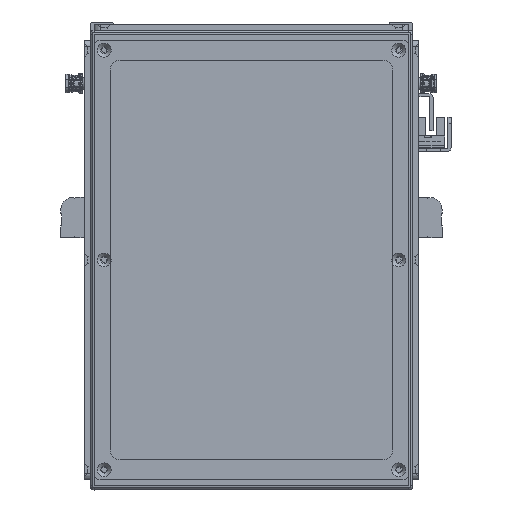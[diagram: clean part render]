
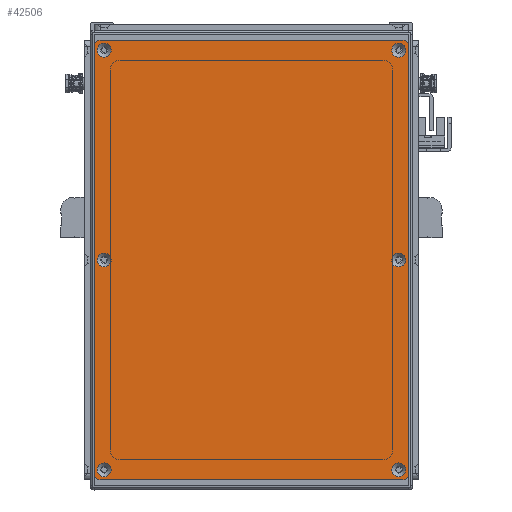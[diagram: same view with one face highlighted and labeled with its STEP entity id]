
A CAD part, front view. The second image highlights one B-rep face of the part: STEP entity #42506.
In plain terms, the highlighted planar face has unit normal (0, -1, 0).
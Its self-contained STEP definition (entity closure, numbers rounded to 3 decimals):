
#4842=FACE_BOUND('',#11411,.T.);
#4843=FACE_BOUND('',#11412,.T.);
#4844=FACE_BOUND('',#11413,.T.);
#4845=FACE_BOUND('',#11414,.T.);
#4846=FACE_BOUND('',#11415,.T.);
#4847=FACE_BOUND('',#11416,.T.);
#5821=PLANE('',#47371);
#8906=FACE_OUTER_BOUND('',#11410,.T.);
#11410=EDGE_LOOP('',(#39442,#39443,#39444,#39445,#39446,#39447,#39448,#39449));
#11411=EDGE_LOOP('',(#39450));
#11412=EDGE_LOOP('',(#39451));
#11413=EDGE_LOOP('',(#39452));
#11414=EDGE_LOOP('',(#39453));
#11415=EDGE_LOOP('',(#39454));
#11416=EDGE_LOOP('',(#39455));
#14515=LINE('',#74577,#17597);
#14516=LINE('',#74581,#17598);
#14517=LINE('',#74585,#17599);
#14518=LINE('',#74588,#17600);
#17597=VECTOR('',#58978,10.);
#17598=VECTOR('',#58981,10.);
#17599=VECTOR('',#58984,10.);
#17600=VECTOR('',#58987,10.);
#19762=CIRCLE('',#47339,3.45);
#19765=CIRCLE('',#47344,3.45);
#19768=CIRCLE('',#47349,3.45);
#19771=CIRCLE('',#47354,3.45);
#19774=CIRCLE('',#47359,3.45);
#19777=CIRCLE('',#47364,3.45);
#19780=CIRCLE('',#47369,3.);
#19782=CIRCLE('',#47372,3.);
#19783=CIRCLE('',#47373,3.);
#19784=CIRCLE('',#47374,3.);
#23371=VERTEX_POINT('',#74507);
#23374=VERTEX_POINT('',#74517);
#23377=VERTEX_POINT('',#74527);
#23380=VERTEX_POINT('',#74537);
#23383=VERTEX_POINT('',#74547);
#23386=VERTEX_POINT('',#74557);
#23389=VERTEX_POINT('',#74567);
#23390=VERTEX_POINT('',#74568);
#23393=VERTEX_POINT('',#74576);
#23394=VERTEX_POINT('',#74578);
#23395=VERTEX_POINT('',#74580);
#23396=VERTEX_POINT('',#74582);
#23397=VERTEX_POINT('',#74584);
#23398=VERTEX_POINT('',#74586);
#28758=EDGE_CURVE('',#23371,#23371,#19762,.T.);
#28763=EDGE_CURVE('',#23374,#23374,#19765,.T.);
#28768=EDGE_CURVE('',#23377,#23377,#19768,.T.);
#28773=EDGE_CURVE('',#23380,#23380,#19771,.T.);
#28778=EDGE_CURVE('',#23383,#23383,#19774,.T.);
#28783=EDGE_CURVE('',#23386,#23386,#19777,.T.);
#28788=EDGE_CURVE('',#23389,#23390,#19780,.T.);
#28792=EDGE_CURVE('',#23389,#23393,#14515,.T.);
#28793=EDGE_CURVE('',#23394,#23393,#19782,.T.);
#28794=EDGE_CURVE('',#23394,#23395,#14516,.T.);
#28795=EDGE_CURVE('',#23396,#23395,#19783,.T.);
#28796=EDGE_CURVE('',#23396,#23397,#14517,.T.);
#28797=EDGE_CURVE('',#23398,#23397,#19784,.T.);
#28798=EDGE_CURVE('',#23398,#23390,#14518,.T.);
#39442=ORIENTED_EDGE('',*,*,#28788,.F.);
#39443=ORIENTED_EDGE('',*,*,#28792,.T.);
#39444=ORIENTED_EDGE('',*,*,#28793,.F.);
#39445=ORIENTED_EDGE('',*,*,#28794,.T.);
#39446=ORIENTED_EDGE('',*,*,#28795,.F.);
#39447=ORIENTED_EDGE('',*,*,#28796,.T.);
#39448=ORIENTED_EDGE('',*,*,#28797,.F.);
#39449=ORIENTED_EDGE('',*,*,#28798,.T.);
#39450=ORIENTED_EDGE('',*,*,#28758,.T.);
#39451=ORIENTED_EDGE('',*,*,#28763,.T.);
#39452=ORIENTED_EDGE('',*,*,#28768,.T.);
#39453=ORIENTED_EDGE('',*,*,#28773,.T.);
#39454=ORIENTED_EDGE('',*,*,#28778,.T.);
#39455=ORIENTED_EDGE('',*,*,#28783,.T.);
#42506=ADVANCED_FACE('',(#8906,#4842,#4843,#4844,#4845,#4846,#4847),#5821,
 .T.);
#47339=AXIS2_PLACEMENT_3D('',#74508,#58898,#58899);
#47344=AXIS2_PLACEMENT_3D('',#74518,#58910,#58911);
#47349=AXIS2_PLACEMENT_3D('',#74528,#58922,#58923);
#47354=AXIS2_PLACEMENT_3D('',#74538,#58934,#58935);
#47359=AXIS2_PLACEMENT_3D('',#74548,#58946,#58947);
#47364=AXIS2_PLACEMENT_3D('',#74558,#58958,#58959);
#47369=AXIS2_PLACEMENT_3D('',#74569,#58970,#58971);
#47371=AXIS2_PLACEMENT_3D('',#74575,#58976,#58977);
#47372=AXIS2_PLACEMENT_3D('',#74579,#58979,#58980);
#47373=AXIS2_PLACEMENT_3D('',#74583,#58982,#58983);
#47374=AXIS2_PLACEMENT_3D('',#74587,#58985,#58986);
#58898=DIRECTION('center_axis',(0.,1.,0.));
#58899=DIRECTION('ref_axis',(1.,0.,0.));
#58910=DIRECTION('center_axis',(0.,1.,0.));
#58911=DIRECTION('ref_axis',(1.,0.,0.));
#58922=DIRECTION('center_axis',(0.,1.,0.));
#58923=DIRECTION('ref_axis',(1.,0.,0.));
#58934=DIRECTION('center_axis',(0.,1.,0.));
#58935=DIRECTION('ref_axis',(1.,0.,0.));
#58946=DIRECTION('center_axis',(0.,1.,0.));
#58947=DIRECTION('ref_axis',(1.,0.,0.));
#58958=DIRECTION('center_axis',(0.,1.,0.));
#58959=DIRECTION('ref_axis',(1.,0.,0.));
#58970=DIRECTION('center_axis',(0.,1.,0.));
#58971=DIRECTION('ref_axis',(-0.707,0.,0.707));
#58976=DIRECTION('center_axis',(0.,-1.,0.));
#58977=DIRECTION('ref_axis',(0.,0.,-1.));
#58978=DIRECTION('',(0.,0.,-1.));
#58979=DIRECTION('center_axis',(0.,1.,0.));
#58980=DIRECTION('ref_axis',(-0.707,0.,-0.707));
#58981=DIRECTION('',(1.,0.,0.));
#58982=DIRECTION('center_axis',(0.,1.,0.));
#58983=DIRECTION('ref_axis',(0.707,0.,-0.707));
#58984=DIRECTION('',(0.,0.,1.));
#58985=DIRECTION('center_axis',(0.,1.,0.));
#58986=DIRECTION('ref_axis',(0.707,0.,0.707));
#58987=DIRECTION('',(-1.,0.,0.));
#74507=CARTESIAN_POINT('',(100.55,-1.5,73.));
#74508=CARTESIAN_POINT('Origin',(104.,-1.5,73.));
#74517=CARTESIAN_POINT('',(-107.45,-1.5,-73.));
#74518=CARTESIAN_POINT('Origin',(-104.,-1.5,-73.));
#74527=CARTESIAN_POINT('',(-3.45,-1.5,73.));
#74528=CARTESIAN_POINT('Origin',(0.,-1.5,73.));
#74537=CARTESIAN_POINT('',(-3.45,-1.5,-73.));
#74538=CARTESIAN_POINT('Origin',(0.,-1.5,-73.));
#74547=CARTESIAN_POINT('',(-107.45,-1.5,73.));
#74548=CARTESIAN_POINT('Origin',(-104.,-1.5,73.));
#74557=CARTESIAN_POINT('',(100.55,-1.5,-73.));
#74558=CARTESIAN_POINT('Origin',(104.,-1.5,-73.));
#74567=CARTESIAN_POINT('',(-109.,-1.5,75.));
#74568=CARTESIAN_POINT('',(-106.,-1.5,78.));
#74569=CARTESIAN_POINT('Origin',(-106.,-1.5,75.));
#74575=CARTESIAN_POINT('Origin',(0.,-1.5,0.));
#74576=CARTESIAN_POINT('',(-109.,-1.5,-75.));
#74577=CARTESIAN_POINT('',(-109.,-1.5,78.));
#74578=CARTESIAN_POINT('',(-106.,-1.5,-78.));
#74579=CARTESIAN_POINT('Origin',(-106.,-1.5,-75.));
#74580=CARTESIAN_POINT('',(106.,-1.5,-78.));
#74581=CARTESIAN_POINT('',(-109.,-1.5,-78.));
#74582=CARTESIAN_POINT('',(109.,-1.5,-75.));
#74583=CARTESIAN_POINT('Origin',(106.,-1.5,-75.));
#74584=CARTESIAN_POINT('',(109.,-1.5,75.));
#74585=CARTESIAN_POINT('',(109.,-1.5,-78.));
#74586=CARTESIAN_POINT('',(106.,-1.5,78.));
#74587=CARTESIAN_POINT('Origin',(106.,-1.5,75.));
#74588=CARTESIAN_POINT('',(109.,-1.5,78.));
